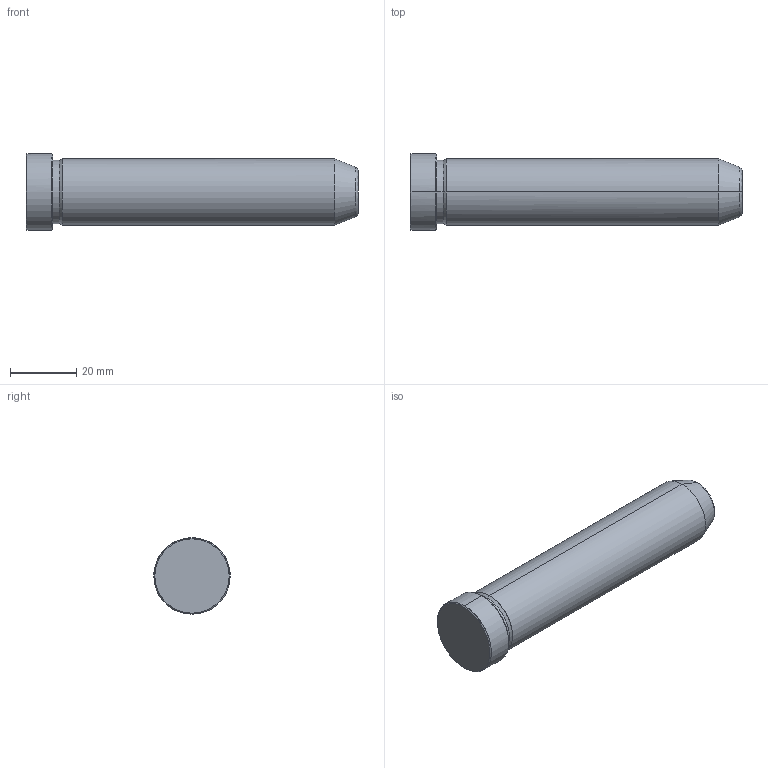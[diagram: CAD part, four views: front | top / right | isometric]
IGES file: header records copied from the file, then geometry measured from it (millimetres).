
Start section: START RECORD GO HERE.
Global section: file name: 549-20X100.igs; native system: DASSAULT SYSTEMES CATIA V5 R20 - www.3ds.com; preprocessor: CATIA Version 5 Release 20 ; author: Utente; organization: NB04-ASUS; date: 20211211.105424; units: millimetre
Bounding box: 100 x 23 x 23 mm (x, y, z)
Surface area: 7002.5 mm2 (no closed solid volume)
Topology: 0 solids, 0 shells, 19 faces, 112 edges, 112 vertices
Faces by surface type: revolution 16, plane 3
